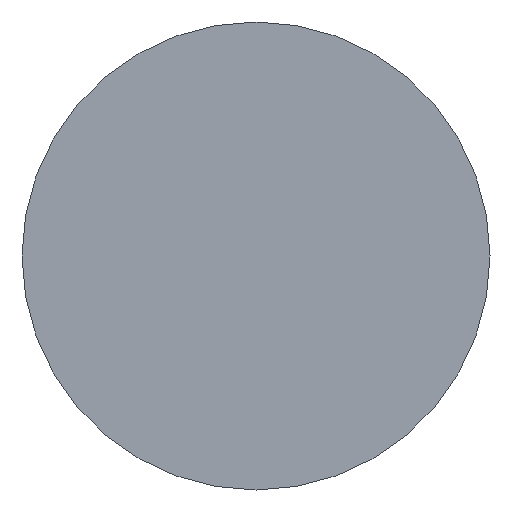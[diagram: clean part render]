
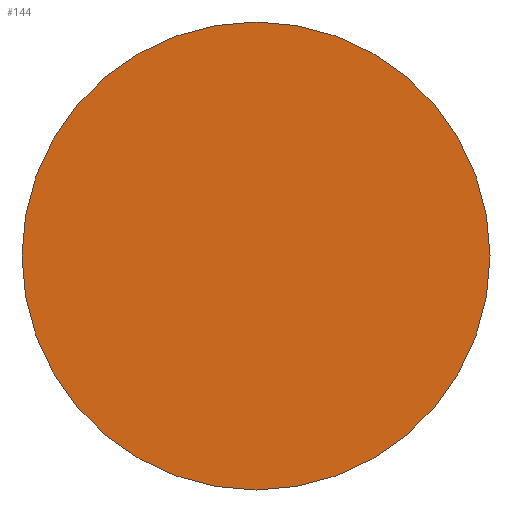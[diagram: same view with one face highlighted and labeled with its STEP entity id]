
A CAD part, left-side view. The second image highlights one B-rep face of the part: STEP entity #144.
In plain terms, the highlighted planar face has unit normal (-1, 0, 0).
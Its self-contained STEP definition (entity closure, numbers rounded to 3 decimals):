
#33 = CARTESIAN_POINT ( 'NONE',  ( 0., -1.5, 0. ) ) ;
#34 = VERTEX_POINT ( 'NONE', #33 ) ;
#50 = EDGE_LOOP ( 'NONE', ( #225, #79 ) ) ;
#60 = DIRECTION ( 'NONE',  ( 0., 1., 0. ) ) ;
#79 = ORIENTED_EDGE ( 'NONE', *, *, #175, .F. ) ;
#94 = VERTEX_POINT ( 'NONE', #124 ) ;
#115 = DIRECTION ( 'NONE',  ( 0., -1., 0. ) ) ;
#123 = CARTESIAN_POINT ( 'NONE',  ( 0., 0., 0. ) ) ;
#124 = CARTESIAN_POINT ( 'NONE',  ( 0., 1.5, 0. ) ) ;
#127 = CARTESIAN_POINT ( 'NONE',  ( 0., 0., 0. ) ) ;
#134 = DIRECTION ( 'NONE',  ( -1., 0., 0. ) ) ;
#144 = ADVANCED_FACE ( 'NONE', ( #173 ), #248, .T. ) ;
#173 = FACE_OUTER_BOUND ( 'NONE', #50, .T. ) ;
#175 = EDGE_CURVE ( 'NONE', #34, #94, #188, .T. ) ;
#188 = CIRCLE ( 'NONE', #218, 1.5 ) ;
#218 = AXIS2_PLACEMENT_3D ( 'NONE', #123, #252, #241 ) ;
#219 = EDGE_CURVE ( 'NONE', #94, #34, #223, .T. ) ;
#223 = CIRCLE ( 'NONE', #246, 1.5 ) ;
#225 = ORIENTED_EDGE ( 'NONE', *, *, #219, .F. ) ;
#236 = AXIS2_PLACEMENT_3D ( 'NONE', #265, #134, #115 ) ;
#241 = DIRECTION ( 'NONE',  ( 0., 1., 0. ) ) ;
#246 = AXIS2_PLACEMENT_3D ( 'NONE', #127, #247, #60 ) ;
#247 = DIRECTION ( 'NONE',  ( 1., 0., 0. ) ) ;
#248 = PLANE ( 'NONE',  #236 ) ;
#252 = DIRECTION ( 'NONE',  ( 1., 0., 0. ) ) ;
#265 = CARTESIAN_POINT ( 'NONE',  ( 0., 0., 0. ) ) ;
